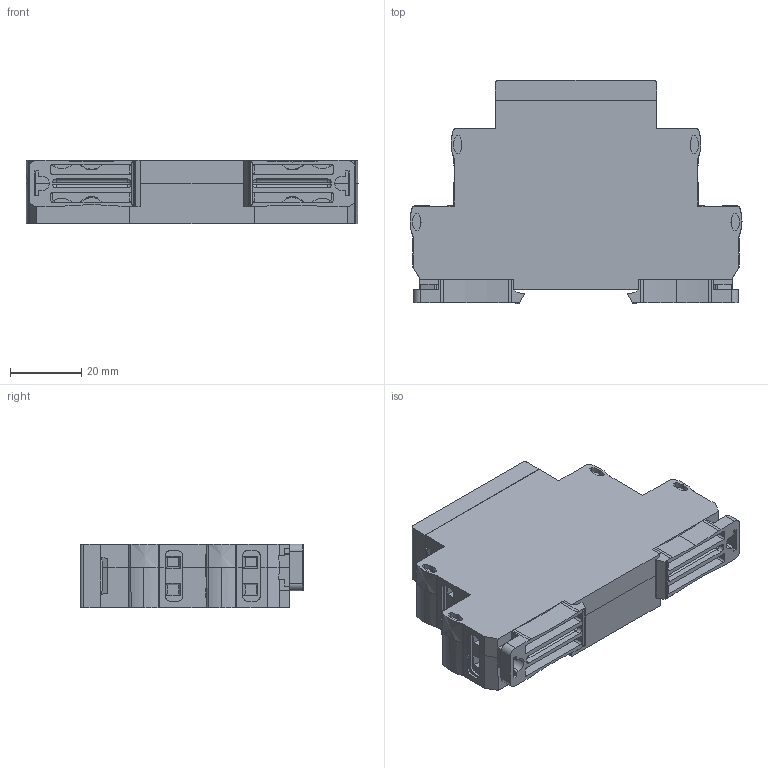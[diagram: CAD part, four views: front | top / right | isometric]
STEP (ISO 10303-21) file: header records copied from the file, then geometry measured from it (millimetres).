
FILE_DESCRIPTION (( 'STEP AP214' ), '1' );
FILE_NAME ('Assem_2019-02-22_el-13m.STEP', '2019-06-09T10:15:41', ( '' ), ( '' ), 'SwSTEP 2.0', 'SolidWorks 2012', '' );
FILE_SCHEMA (( 'AUTOMOTIVE_DESIGN' ));
Length unit declared in the file: millimetre
Products named in the file (14): ÅË-13Ì-15_ëèöî; ﾅﾋ-11ﾌ-15_22-21-24; ﾅﾋ-11ﾌ-15_12-11-14; ﾅﾋ-11ﾌ-15_L1; ﾅﾋ-11ﾌ-15_L3-L2; Mark_Meandr_EAC; LightPipe_x3x2x1_v2015-0_build20160120_x1; DG128-5.08_Configurable_5.08x3; DG128-5.08_Configurable_7.62x2; Case13-18-23mm_2step_Lock_v01a; Case13-18-23mm_2step_Face_v011_13_厠-13; Case13-18-23mm_2step_Half_v01c_6.5mm; Case13-18-23mm_2step_Half_v01c_11.25mm; Assem_2019-02-22_el-13m
Assembly tree (17 placements, depth 2):
  Assem_2019-02-22_el-13m
    Case13-18-23mm_2step_Half_v01c_11.25mm
    Case13-18-23mm_2step_Half_v01c_6.5mm
    Case13-18-23mm_2step_Face_v011_13_厠-13
    Case13-18-23mm_2step_Lock_v01a  x2
    DG128-5.08_Configurable_7.62x2  x2
    DG128-5.08_Configurable_5.08x3  x2
    LightPipe_x3x2x1_v2015-0_build20160120_x1  x2
    Mark_Meandr_EAC
    ﾅﾋ-11ﾌ-15_L3-L2
    ﾅﾋ-11ﾌ-15_L1
    ﾅﾋ-11ﾌ-15_12-11-14
    ﾅﾋ-11ﾌ-15_22-21-24
    ÅË-13Ì-15_ëèöî
Bounding box: 93 x 62.7 x 17.8 mm (x, y, z)
Volume: 25412.5 mm3; surface area: 38105.8 mm2
Topology: 88 solids, 88 shells, 2612 faces, 7041 edges, 4628 vertices
Faces by surface type: plane 1825, bspline 455, cylinder 276, cone 36, torus 12, sphere 8
Entity records: 76698 total; most frequent: CARTESIAN_POINT 18913, ORIENTED_EDGE 12450, DIRECTION 9541, EDGE_CURVE 6225, LINE 4739, VECTOR 4739, VERTEX_POINT 4118, AXIS2_PLACEMENT_3D 2401
